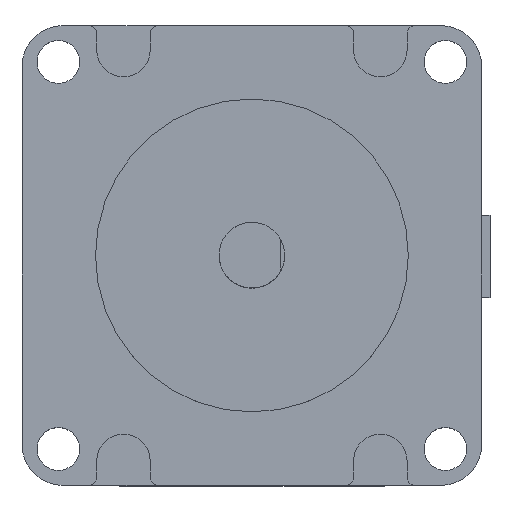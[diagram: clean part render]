
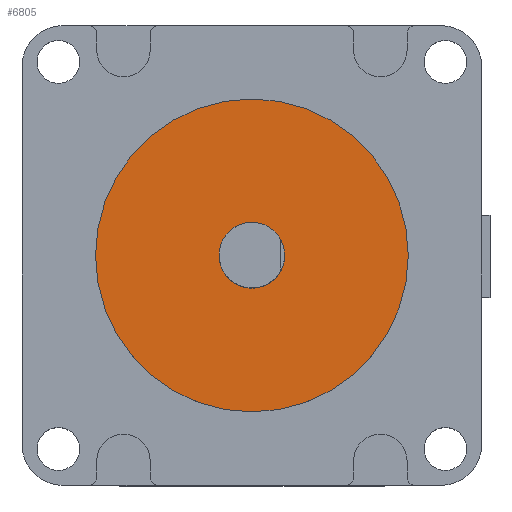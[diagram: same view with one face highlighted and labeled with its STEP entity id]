
A CAD part, top view. The second image highlights one B-rep face of the part: STEP entity #6805.
In plain terms, the highlighted planar face has unit normal (0, 0, 1).
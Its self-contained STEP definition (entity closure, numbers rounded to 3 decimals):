
#1498=CARTESIAN_POINT('',(28.,28.,56.6));
#1499=DIRECTION('',(0.,0.,1.));
#1500=DIRECTION('',(1.,0.,0.));
#1501=AXIS2_PLACEMENT_3D('',#1498,#1499,#1500);
#1503=CARTESIAN_POINT('',(28.,28.,56.6));
#1504=DIRECTION('',(0.,0.,1.));
#1505=DIRECTION('',(-1.,0.,0.));
#1506=AXIS2_PLACEMENT_3D('',#1503,#1504,#1505);
#1508=CARTESIAN_POINT('',(28.,28.,56.6));
#1509=DIRECTION('',(0.,0.,1.));
#1510=DIRECTION('',(1.,0.,0.));
#1511=AXIS2_PLACEMENT_3D('',#1508,#1509,#1510);
#1513=CARTESIAN_POINT('',(28.,28.,56.6));
#1514=DIRECTION('',(0.,0.,1.));
#1515=DIRECTION('',(-1.,0.,0.));
#1516=AXIS2_PLACEMENT_3D('',#1513,#1514,#1515);
#5158=CARTESIAN_POINT('',(47.05,28.,56.6));
#5159=CARTESIAN_POINT('',(8.95,28.,56.6));
#5160=VERTEX_POINT('',#5158);
#5161=VERTEX_POINT('',#5159);
#5162=CARTESIAN_POINT('',(32.,28.,56.6));
#5163=CARTESIAN_POINT('',(24.,28.,56.6));
#5164=VERTEX_POINT('',#5162);
#5165=VERTEX_POINT('',#5163);
#6790=CARTESIAN_POINT('',(0.,0.,56.6));
#6791=DIRECTION('',(0.,0.,1.));
#6792=DIRECTION('',(1.,0.,0.));
#6793=AXIS2_PLACEMENT_3D('',#6790,#6791,#6792);
#6794=PLANE('',#6793);
#6795=ORIENTED_EDGE('',*,*,#6769,.F.);
#6796=ORIENTED_EDGE('',*,*,#6783,.F.);
#6797=EDGE_LOOP('',(#6795,#6796));
#6798=FACE_OUTER_BOUND('',#6797,.F.);
#6800=ORIENTED_EDGE('',*,*,#6799,.T.);
#6802=ORIENTED_EDGE('',*,*,#6801,.T.);
#6803=EDGE_LOOP('',(#6800,#6802));
#6804=FACE_BOUND('',#6803,.F.);
#6805=ADVANCED_FACE('',(#6798,#6804),#6794,.T.);
#1502=CIRCLE('',#1501,19.05);
#1507=CIRCLE('',#1506,19.05);
#1512=CIRCLE('',#1511,4.);
#1517=CIRCLE('',#1516,4.);
#6769=EDGE_CURVE('',#5160,#5161,#1502,.T.);
#6783=EDGE_CURVE('',#5161,#5160,#1507,.T.);
#6799=EDGE_CURVE('',#5164,#5165,#1512,.T.);
#6801=EDGE_CURVE('',#5165,#5164,#1517,.T.);
